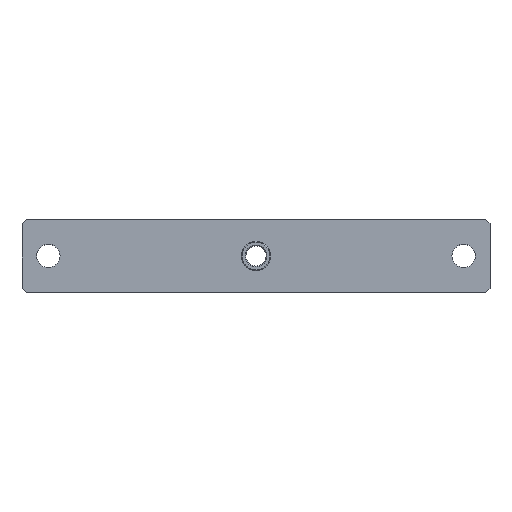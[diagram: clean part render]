
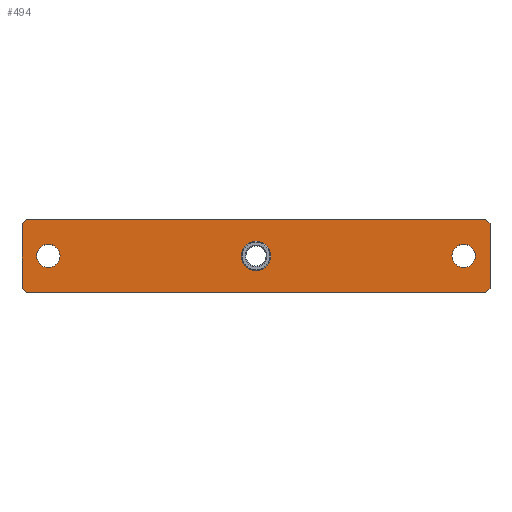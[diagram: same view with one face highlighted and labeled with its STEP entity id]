
A CAD part, top view. The second image highlights one B-rep face of the part: STEP entity #494.
In plain terms, the highlighted planar face has unit normal (0, 0, 1).
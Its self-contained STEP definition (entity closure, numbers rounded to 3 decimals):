
#39=AXIS2_PLACEMENT_3D('Circle Axis2P3D',#37,#38,$) ;
#74=AXIS2_PLACEMENT_3D('Circle Axis2P3D',#72,#73,$) ;
#96=AXIS2_PLACEMENT_3D('Circle Axis2P3D',#94,#95,$) ;
#131=AXIS2_PLACEMENT_3D('Circle Axis2P3D',#129,#130,$) ;
#153=AXIS2_PLACEMENT_3D('Circle Axis2P3D',#151,#152,$) ;
#188=AXIS2_PLACEMENT_3D('Circle Axis2P3D',#186,#187,$) ;
#465=AXIS2_PLACEMENT_3D('Plane Axis2P3D',#462,#463,#464) ;
#37=CARTESIAN_POINT('Axis2P3D Location',(-142.,0.,5.)) ;
#41=CARTESIAN_POINT('Vertex',(-150.,0.,5.)) ;
#43=CARTESIAN_POINT('Vertex',(-134.,0.,5.)) ;
#72=CARTESIAN_POINT('Axis2P3D Location',(-142.,0.,5.)) ;
#94=CARTESIAN_POINT('Axis2P3D Location',(142.,0.,5.)) ;
#98=CARTESIAN_POINT('Vertex',(150.,0.,5.)) ;
#100=CARTESIAN_POINT('Vertex',(134.,0.,5.)) ;
#129=CARTESIAN_POINT('Axis2P3D Location',(142.,0.,5.)) ;
#151=CARTESIAN_POINT('Axis2P3D Location',(0.,0.,5.)) ;
#155=CARTESIAN_POINT('Vertex',(-10.,0.,5.)) ;
#157=CARTESIAN_POINT('Vertex',(10.,0.,5.)) ;
#186=CARTESIAN_POINT('Axis2P3D Location',(0.,0.,5.)) ;
#214=CARTESIAN_POINT('Vertex',(160.,22.,5.)) ;
#228=CARTESIAN_POINT('Vertex',(157.,25.,5.)) ;
#231=CARTESIAN_POINT('Line Origine',(158.5,23.5,5.)) ;
#254=CARTESIAN_POINT('Vertex',(160.,-22.,5.)) ;
#262=CARTESIAN_POINT('Line Origine',(160.,0.,5.)) ;
#285=CARTESIAN_POINT('Vertex',(157.,-25.,5.)) ;
#293=CARTESIAN_POINT('Line Origine',(158.5,-23.5,5.)) ;
#316=CARTESIAN_POINT('Vertex',(-157.,25.,5.)) ;
#319=CARTESIAN_POINT('Line Origine',(0.,25.,5.)) ;
#352=CARTESIAN_POINT('Vertex',(-160.,22.,5.)) ;
#355=CARTESIAN_POINT('Line Origine',(-158.5,23.5,5.)) ;
#378=CARTESIAN_POINT('Vertex',(-157.,-25.,5.)) ;
#386=CARTESIAN_POINT('Line Origine',(0.,-25.,5.)) ;
#409=CARTESIAN_POINT('Vertex',(-160.,-22.,5.)) ;
#412=CARTESIAN_POINT('Line Origine',(-160.,0.,5.)) ;
#462=CARTESIAN_POINT('Axis2P3D Location',(0.,0.,5.)) ;
#467=CARTESIAN_POINT('Line Origine',(-158.5,-23.5,5.)) ;
#38=DIRECTION('Axis2P3D Direction',(0.,0.,1.)) ;
#73=DIRECTION('Axis2P3D Direction',(0.,0.,1.)) ;
#95=DIRECTION('Axis2P3D Direction',(0.,0.,1.)) ;
#130=DIRECTION('Axis2P3D Direction',(0.,0.,1.)) ;
#152=DIRECTION('Axis2P3D Direction',(0.,0.,1.)) ;
#187=DIRECTION('Axis2P3D Direction',(0.,0.,1.)) ;
#232=DIRECTION('Vector Direction',(0.707,-0.707,0.)) ;
#263=DIRECTION('Vector Direction',(0.,-1.,0.)) ;
#294=DIRECTION('Vector Direction',(0.707,0.707,0.)) ;
#320=DIRECTION('Vector Direction',(1.,0.,0.)) ;
#356=DIRECTION('Vector Direction',(-0.707,-0.707,0.)) ;
#387=DIRECTION('Vector Direction',(-1.,0.,0.)) ;
#413=DIRECTION('Vector Direction',(0.,1.,0.)) ;
#463=DIRECTION('Axis2P3D Direction',(0.,0.,1.)) ;
#464=DIRECTION('Axis2P3D XDirection',(1.,0.,0.)) ;
#468=DIRECTION('Vector Direction',(0.707,-0.707,0.)) ;
#233=VECTOR('Line Direction',#232,1.) ;
#264=VECTOR('Line Direction',#263,1.) ;
#295=VECTOR('Line Direction',#294,1.) ;
#321=VECTOR('Line Direction',#320,1.) ;
#357=VECTOR('Line Direction',#356,1.) ;
#388=VECTOR('Line Direction',#387,1.) ;
#414=VECTOR('Line Direction',#413,1.) ;
#469=VECTOR('Line Direction',#468,1.) ;
#473=ORIENTED_EDGE('',*,*,#390,.T.) ;
#474=ORIENTED_EDGE('',*,*,#297,.F.) ;
#475=ORIENTED_EDGE('',*,*,#266,.T.) ;
#476=ORIENTED_EDGE('',*,*,#235,.F.) ;
#477=ORIENTED_EDGE('',*,*,#323,.T.) ;
#478=ORIENTED_EDGE('',*,*,#359,.F.) ;
#479=ORIENTED_EDGE('',*,*,#416,.T.) ;
#480=ORIENTED_EDGE('',*,*,#471,.F.) ;
#483=ORIENTED_EDGE('',*,*,#45,.F.) ;
#484=ORIENTED_EDGE('',*,*,#76,.F.) ;
#487=ORIENTED_EDGE('',*,*,#102,.F.) ;
#488=ORIENTED_EDGE('',*,*,#133,.F.) ;
#491=ORIENTED_EDGE('',*,*,#159,.F.) ;
#492=ORIENTED_EDGE('',*,*,#190,.F.) ;
#485=FACE_BOUND('',#482,.T.) ;
#489=FACE_BOUND('',#486,.T.) ;
#493=FACE_BOUND('',#490,.T.) ;
#494=ADVANCED_FACE('\X2\96F64EF651E04F554F53\X0\',(#481,#485,#489,#493),#466,.T.) ;
#40=CIRCLE('generated circle',#39,8.) ;
#75=CIRCLE('generated circle',#74,8.) ;
#97=CIRCLE('generated circle',#96,8.) ;
#132=CIRCLE('generated circle',#131,8.) ;
#154=CIRCLE('generated circle',#153,10.) ;
#189=CIRCLE('generated circle',#188,10.) ;
#45=EDGE_CURVE('',#42,#44,#40,.T.) ;
#76=EDGE_CURVE('',#44,#42,#75,.T.) ;
#102=EDGE_CURVE('',#99,#101,#97,.T.) ;
#133=EDGE_CURVE('',#101,#99,#132,.T.) ;
#159=EDGE_CURVE('',#156,#158,#154,.T.) ;
#190=EDGE_CURVE('',#158,#156,#189,.T.) ;
#235=EDGE_CURVE('',#229,#215,#234,.T.) ;
#266=EDGE_CURVE('',#255,#215,#265,.F.) ;
#297=EDGE_CURVE('',#255,#286,#296,.F.) ;
#323=EDGE_CURVE('',#229,#317,#322,.F.) ;
#359=EDGE_CURVE('',#353,#317,#358,.F.) ;
#390=EDGE_CURVE('',#379,#286,#389,.F.) ;
#416=EDGE_CURVE('',#353,#410,#415,.F.) ;
#471=EDGE_CURVE('',#379,#410,#470,.F.) ;
#472=EDGE_LOOP('',(#473,#474,#475,#476,#477,#478,#479,#480)) ;
#482=EDGE_LOOP('',(#483,#484)) ;
#486=EDGE_LOOP('',(#487,#488)) ;
#490=EDGE_LOOP('',(#491,#492)) ;
#481=FACE_OUTER_BOUND('',#472,.T.) ;
#234=LINE('Line',#231,#233) ;
#265=LINE('Line',#262,#264) ;
#296=LINE('Line',#293,#295) ;
#322=LINE('Line',#319,#321) ;
#358=LINE('Line',#355,#357) ;
#389=LINE('Line',#386,#388) ;
#415=LINE('Line',#412,#414) ;
#470=LINE('Line',#467,#469) ;
#466=PLANE('Plane',#465) ;
#42=VERTEX_POINT('',#41) ;
#44=VERTEX_POINT('',#43) ;
#99=VERTEX_POINT('',#98) ;
#101=VERTEX_POINT('',#100) ;
#156=VERTEX_POINT('',#155) ;
#158=VERTEX_POINT('',#157) ;
#215=VERTEX_POINT('',#214) ;
#229=VERTEX_POINT('',#228) ;
#255=VERTEX_POINT('',#254) ;
#286=VERTEX_POINT('',#285) ;
#317=VERTEX_POINT('',#316) ;
#353=VERTEX_POINT('',#352) ;
#379=VERTEX_POINT('',#378) ;
#410=VERTEX_POINT('',#409) ;
